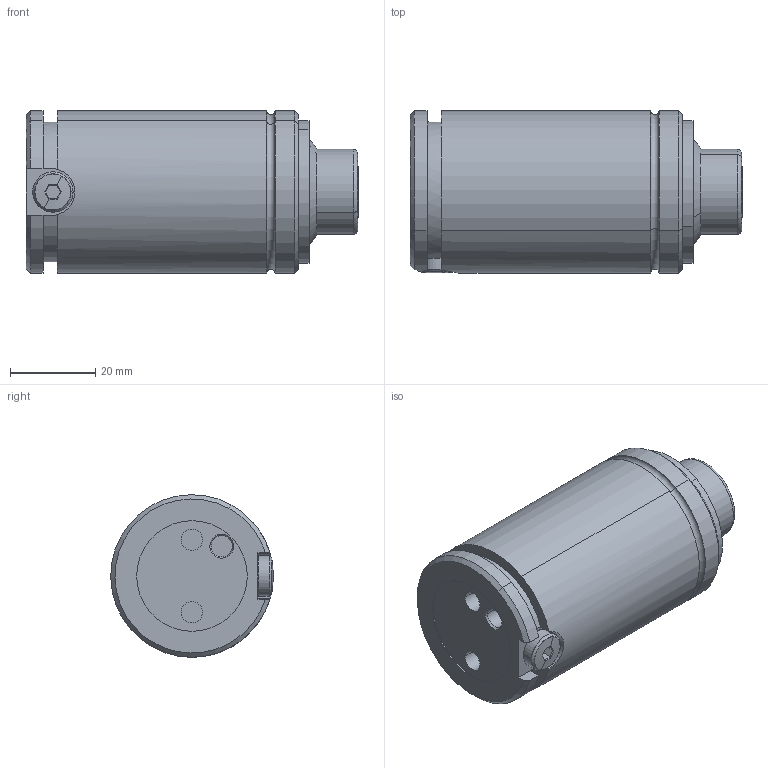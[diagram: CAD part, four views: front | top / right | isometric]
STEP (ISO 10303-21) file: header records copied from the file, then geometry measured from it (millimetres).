
FILE_DESCRIPTION(('CATIA V5 STEP Exchange'),'2;1');
FILE_NAME('W:\CATALOGO GENERAL 2015\CATIA\TPFS1000x25\TPFS 1000x10.stp','2017-11-21T12:20:19+00:00',('none'),('none'),'CATIA Version 5 Release 17 (IN-10)','CATIA V5 STEP AP203','none');
FILE_SCHEMA(('CONFIG_CONTROL_DESIGN'));
Length unit declared in the file: millimetre
Products named in the file (1): TPFS 1000x10
Assembly tree (4 placements, depth 2):
  TPFS 1000x10
    #56
    #1122
    #1312
    #1552
Bounding box: 78 x 38.19 x 38.19 mm (x, y, z)
Volume: 89942.2 mm3; surface area: 16984.1 mm2
Topology: 4 solids, 4 shells, 118 faces, 265 edges, 162 vertices
Faces by surface type: cylinder 31, cone 27, torus 26, plane 26, bspline 8
Entity records: 3389 total; most frequent: CARTESIAN_POINT 886, ORIENTED_EDGE 530, DIRECTION 397, EDGE_CURVE 265, AXIS2_PLACEMENT_3D 230, VERTEX_POINT 162, CIRCLE 143, EDGE_LOOP 127
